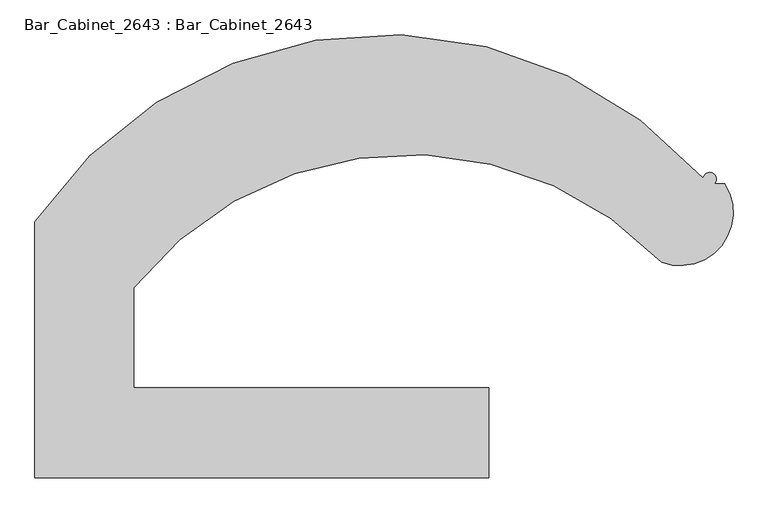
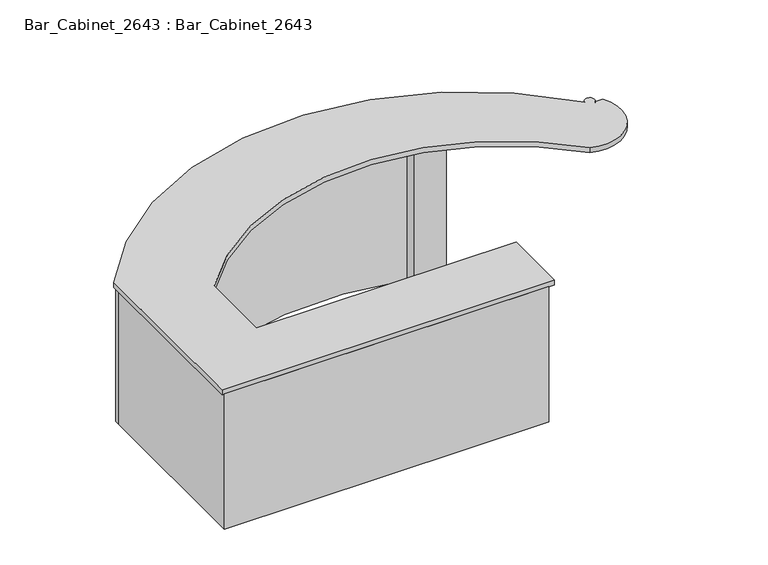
"""IFC4 building model written with IfcOpenShell, lengths in millimetres: furniture geometry, Bar_Cabinet_2643 : Bar_Cabinet_2643."""

from ifc_helpers import new_model, si_unit, point, frame, frame_2d, origin, origin_with_axes, place, context, project, spatial, polyline, circle_curve, trimmed, segment, composite_curve, outline, extrude, faceted_brep, source, transform, mapped, element, save


def bar_cabinet_2643_bar_cabinet_2643_6f9020b6(model_context):
    return source(origin(), model_context, "Body", "SolidModel", [
        extrude(outline(polyline([(-460.2996736, -32.0), (-460.2996736, -26.0), (-190.2996736, -26.0), (-190.2996736, -32.0), (-460.2996736, -32.0)])), frame((0.0, 0.0, 148.3551782), z_axis=(0.0, 0.0, 1.0), x_axis=(1.0, 0.0, 0.0)), (0.0, 0.0, 1.0), 682.9868778),
        extrude(outline(polyline([(-518.4142545, 645.0), (-512.4142545, 645.0), (-512.4142545, 375.0), (-518.4142545, 375.0), (-518.4142545, 645.0)])), frame((0.0, 0.0, 148.3551782), z_axis=(0.0, 0.0, 1.0), x_axis=(1.0, 0.0, 0.0)), (0.0, 0.0, 1.0), 682.9868778),
        extrude(outline(polyline([(-518.4142545, 370.0), (-512.4142545, 370.0), (-512.4142545, 100.0), (-518.4142545, 100.0), (-518.4142545, 370.0)])), frame((0.0, 0.0, 148.3551782), z_axis=(0.0, 0.0, 1.0), x_axis=(1.0, 0.0, 0.0)), (0.0, 0.0, 1.0), 682.9868778),
        extrude(outline(polyline([(-174.2996736, -32.0), (-174.2996736, -26.0), (95.7003264, -26.0), (95.7003264, -32.0), (-174.2996736, -32.0)])), frame((0.0, 0.0, 148.3551782), z_axis=(0.0, 0.0, 1.0), x_axis=(1.0, 0.0, 0.0)), (0.0, 0.0, 1.0), 682.9868778),
        extrude(outline(polyline([(100.7003264, -32.0), (100.7003264, -26.0), (370.7003264, -26.0), (370.7003264, -32.0), (100.7003264, -32.0)])), frame((0.0, 0.0, 148.3551782), z_axis=(0.0, 0.0, 1.0), x_axis=(1.0, 0.0, 0.0)), (0.0, 0.0, 1.0), 682.9868778),
        extrude(outline(polyline([(386.7003264, -32.0), (386.7003264, -26.0), (656.7003264, -26.0), (656.7003264, -32.0), (386.7003264, -32.0)])), frame((0.0, 0.0, 148.3551782), z_axis=(0.0, 0.0, 1.0), x_axis=(1.0, 0.0, 0.0)), (0.0, 0.0, 1.0), 682.9868778),
        extrude(outline(polyline([(661.7003264, -32.0), (661.7003264, -26.0), (931.7003264, -26.0), (931.7003264, -32.0), (661.7003264, -32.0)])), frame((0.0, 0.0, 148.3551782), z_axis=(0.0, 0.0, 1.0), x_axis=(1.0, 0.0, 0.0)), (0.0, 0.0, 1.0), 682.9868778),
        faceted_brep([(-518.4142545, 710.0, 868.0), (-890.2996736, 710.0, 868.0), (-890.2996736, -400.0, 868.0), (1077.7003264, -400.0, 868.0), (1077.7003264, -32.0, 868.0), (-518.4142545, -32.0, 868.0), (-518.4142545, 710.0, 0.0), (-518.4142545, -32.0, 0.0), (1077.7003264, -32.0, 0.0), (1077.7003264, -400.0, 0.0), (-890.2996736, -400.0, 0.0), (-890.2996736, 710.0, 0.0), (899.7003264, -32.0, 818.0), (418.7003264, -32.0, 818.0), (418.7003264, -32.0, 500.0), (899.7003264, -32.0, 500.0), (338.7003264, -32.0, 818.0), (-142.2996736, -32.0, 818.0), (-142.2996736, -32.0, 500.0), (338.7003264, -32.0, 500.0), (-234.0537141, -32.0, 818.0), (-439.4142545, -32.0, 818.0), (-439.4142545, -32.0, 500.0), (-234.0537141, -32.0, 500.0), (338.7003264, -32.0, 484.0), (-142.2996736, -32.0, 484.0), (-142.2996736, -32.0, 166.0), (338.7003264, -32.0, 166.0), (899.7003264, -32.0, 484.0), (418.7003264, -32.0, 484.0), (418.7003264, -32.0, 166.0), (899.7003264, -32.0, 166.0), (-234.0537141, -32.0, 484.0), (-439.4142545, -32.0, 484.0), (-439.4142545, -32.0, 166.0), (-234.0537141, -32.0, 166.0), (-518.4142545, 125.0, 818.0), (-518.4142545, 625.0, 818.0), (-518.4142545, 625.0, 500.0), (-518.4142545, 125.0, 500.0), (-518.4142545, 125.0, 484.0), (-518.4142545, 625.0, 484.0), (-518.4142545, 625.0, 166.0), (-518.4142545, 125.0, 166.0), (899.7003264, -48.0, 818.0), (931.7003264, -48.0, 818.0), (931.7003264, -284.0, 818.0), (386.7003264, -284.0, 818.0), (386.7003264, -48.0, 818.0), (418.7003264, -48.0, 818.0), (418.7003264, -48.0, 500.0), (386.7003264, -48.0, 500.0), (386.7003264, -284.0, 500.0), (931.7003264, -284.0, 500.0), (931.7003264, -48.0, 500.0), (899.7003264, -48.0, 500.0), (338.7003264, -48.0, 818.0), (370.7003264, -48.0, 818.0), (370.7003264, -284.0, 818.0), (-174.2996736, -284.0, 818.0), (-174.2996736, -48.0, 818.0), (-142.2996736, -48.0, 818.0), (-142.2996736, -48.0, 500.0), (-174.2996736, -48.0, 500.0), (-174.2996736, -284.0, 500.0), (370.7003264, -284.0, 500.0), (370.7003264, -48.0, 500.0), (338.7003264, -48.0, 500.0), (-234.0537141, -48.0, 818.0), (-190.2996736, -48.0, 818.0), (-190.2996736, -284.0, 818.0), (-874.2996736, -284.0, 818.0), (-874.2996736, 708.0, 818.0), (-534.4142545, 708.0, 818.0), (-534.4142545, 625.0, 818.0), (-534.4142545, 125.0, 818.0), (-534.4142545, -48.0, 818.0), (-439.4142545, -48.0, 818.0), (-439.4142545, -48.0, 500.0), (-534.4142545, -48.0, 500.0), (-534.4142545, 125.0, 500.0), (-534.4142545, 625.0, 500.0), (-534.4142545, 708.0, 500.0), (-874.2996736, 708.0, 500.0), (-874.2996736, -284.0, 500.0), (-190.2996736, -284.0, 500.0), (-190.2996736, -48.0, 500.0), (-234.0537141, -48.0, 500.0), (338.7003264, -48.0, 484.0), (370.7003264, -48.0, 484.0), (370.7003264, -284.0, 484.0), (-174.2996736, -284.0, 484.0), (-174.2996736, -48.0, 484.0), (-142.2996736, -48.0, 484.0), (-142.2996736, -48.0, 166.0), (-174.2996736, -48.0, 166.0), (-174.2996736, -284.0, 166.0), (370.7003264, -284.0, 166.0), (370.7003264, -48.0, 166.0), (338.7003264, -48.0, 166.0), (899.7003264, -48.0, 484.0), (931.7003264, -48.0, 484.0), (931.7003264, -284.0, 484.0), (386.7003264, -284.0, 484.0), (386.7003264, -48.0, 484.0), (418.7003264, -48.0, 484.0), (418.7003264, -48.0, 166.0), (386.7003264, -48.0, 166.0), (386.7003264, -284.0, 166.0), (931.7003264, -284.0, 166.0), (931.7003264, -48.0, 166.0), (899.7003264, -48.0, 166.0), (-234.0537141, -48.0, 484.0), (-190.2996736, -48.0, 484.0), (-190.2996736, -284.0, 484.0), (-874.2996736, -284.0, 484.0), (-874.2996736, 708.0, 484.0), (-534.4142545, 708.0, 484.0), (-534.4142545, 625.0, 484.0), (-534.4142545, 125.0, 484.0), (-534.4142545, -48.0, 484.0), (-439.4142545, -48.0, 484.0), (-439.4142545, -48.0, 166.0), (-534.4142545, -48.0, 166.0), (-534.4142545, 125.0, 166.0), (-534.4142545, 625.0, 166.0), (-534.4142545, 708.0, 166.0), (-874.2996736, 708.0, 166.0), (-874.2996736, -284.0, 166.0), (-190.2996736, -284.0, 166.0), (-190.2996736, -48.0, 166.0), (-234.0537141, -48.0, 166.0)], [[[0, 1, 2, 3, 4, 5]], [[6, 7, 8, 9, 10, 11]], [[1, 0, 6, 11]], [[2, 1, 11, 10]], [[3, 2, 10, 9]], [[4, 3, 9, 8]], [[5, 4, 8, 7], [12, 13, 14, 15], [16, 17, 18, 19], [20, 21, 22, 23], [24, 25, 26, 27], [28, 29, 30, 31], [32, 33, 34, 35]], [[0, 5, 7, 6], [36, 37, 38, 39], [40, 41, 42, 43]], [[12, 44, 45, 46, 47, 48, 49, 13]], [[14, 50, 51, 52, 53, 54, 55, 15]], [[13, 49, 50, 14]], [[49, 48, 51, 50]], [[48, 47, 52, 51]], [[47, 46, 53, 52]], [[46, 45, 54, 53]], [[45, 44, 55, 54]], [[44, 12, 15, 55]], [[16, 56, 57, 58, 59, 60, 61, 17]], [[18, 62, 63, 64, 65, 66, 67, 19]], [[17, 61, 62, 18]], [[61, 60, 63, 62]], [[60, 59, 64, 63]], [[59, 58, 65, 64]], [[58, 57, 66, 65]], [[57, 56, 67, 66]], [[56, 16, 19, 67]], [[20, 68, 69, 70, 71, 72, 73, 74, 37, 36, 75, 76, 77, 21]], [[22, 78, 79, 80, 39, 38, 81, 82, 83, 84, 85, 86, 87, 23]], [[21, 77, 78, 22]], [[77, 76, 79, 78]], [[76, 75, 80, 79]], [[75, 36, 39, 80]], [[37, 74, 81, 38]], [[74, 73, 82, 81]], [[73, 72, 83, 82]], [[72, 71, 84, 83]], [[71, 70, 85, 84]], [[70, 69, 86, 85]], [[69, 68, 87, 86]], [[68, 20, 23, 87]], [[24, 88, 89, 90, 91, 92, 93, 25]], [[26, 94, 95, 96, 97, 98, 99, 27]], [[25, 93, 94, 26]], [[93, 92, 95, 94]], [[92, 91, 96, 95]], [[91, 90, 97, 96]], [[90, 89, 98, 97]], [[89, 88, 99, 98]], [[88, 24, 27, 99]], [[28, 100, 101, 102, 103, 104, 105, 29]], [[30, 106, 107, 108, 109, 110, 111, 31]], [[29, 105, 106, 30]], [[105, 104, 107, 106]], [[104, 103, 108, 107]], [[103, 102, 109, 108]], [[102, 101, 110, 109]], [[101, 100, 111, 110]], [[100, 28, 31, 111]], [[32, 112, 113, 114, 115, 116, 117, 118, 41, 40, 119, 120, 121, 33]], [[34, 122, 123, 124, 43, 42, 125, 126, 127, 128, 129, 130, 131, 35]], [[33, 121, 122, 34]], [[121, 120, 123, 122]], [[120, 119, 124, 123]], [[119, 40, 43, 124]], [[41, 118, 125, 42]], [[118, 117, 126, 125]], [[117, 116, 127, 126]], [[116, 115, 128, 127]], [[115, 114, 129, 128]], [[114, 113, 130, 129]], [[113, 112, 131, 130]], [[112, 32, 35, 131]]]),
        extrude(outline(composite_curve([segment(polyline([(1280.8585391, 1080.3364911), (1280.8585391, 1028.7176289), (1082.0337274, 1028.7176289), (1082.0337274, 1098.4576455)]), True, "CONTINUOUS"), segment(trimmed(circle_curve(frame_2d((601.7623012, -856.1102318)), 2012.7086798), [point((1082.0337274, 1098.4576455))], [point((-620.7845085, 742.7567195))], True, "CARTESIAN"), True, "CONTINUOUS"), segment(polyline([(-620.7845085, 742.7567195), (-486.4142545, 742.7567195), (-486.4142545, 710.0), (-890.2996736, 710.0), (-890.2996736, 741.0671274), (-684.0672853, 741.0671274)]), True, "CONTINUOUS"), segment(trimmed(circle_curve(frame_2d((603.8466673, -858.3604804)), 2053.5070055), [point((-684.0672853, 741.0671274))], [point((1280.8585391, 1080.3364911))], False, "CARTESIAN"), True, "CONTINUOUS")], self_intersect=False)), origin_with_axes(), (0.0, 0.0, 1.0), 868.0),
        extrude(outline(composite_curve([segment(trimmed(circle_curve(frame_2d((2090.3225212, 925.1274916)), 29.2739855), [point((2061.1729325, 927.823361))], [point((2113.3048157, 906.9951899))], False, "CARTESIAN"), True, "CONTINUOUS"), segment(polyline([(2113.3048157, 906.9951899), (2156.4704275, 904.133848)]), True, "CONTINUOUS"), segment(trimmed(circle_curve(frame_2d((1958.8032774, 776.4815974)), 235.3027821), [point((2156.4704275, 904.133848))], [point((1877.1469575, 555.8016376))], False, "CARTESIAN"), True, "CONTINUOUS"), segment(trimmed(circle_curve(frame_2d((754.7391665, -523.217204)), 1556.9460201), [point((1877.1469575, 555.8016376))], [point((-466.201007, 442.9018375))], True, "CARTESIAN"), True, "CONTINUOUS"), segment(polyline([(-466.201007, 442.9018375), (-466.201007, 0.0), (1109.7003264, 0.0), (1109.7003264, -400.0), (-904.4398349, -400.0), (-904.4398349, 735.9019817)]), True, "CONTINUOUS"), segment(trimmed(circle_curve(frame_2d((652.1603186, -308.415429)), 1874.4606937), [point((-904.4398349, 735.9019817))], [point((2061.1729325, 927.823361))], False, "CARTESIAN"), True, "CONTINUOUS")], self_intersect=False)), frame((0.0, 0.0, 868.0), z_axis=(0.0, 0.0, 1.0), x_axis=(1.0, 0.0, 0.0)), (0.0, 0.0, 1.0), 32.0),
    ])


if __name__ == "__main__":
    model = new_model("IFC4")
    model_context = context("Model", 3, world=origin())
    ifc_project = project(units=[si_unit("LENGTHUNIT", "METRE", prefix="MILLI")], contexts=[model_context])
    site = spatial("IfcSite", under=ifc_project)
    building = spatial("IfcBuilding", under=site)
    placement = place(None, origin())
    bar_cabinet_2643_bar_cabinet_2643_shape = bar_cabinet_2643_bar_cabinet_2643_6f9020b6(model_context)
    element("IfcFurniture", 1, ObjectType="Bar_Cabinet_2643 : Bar_Cabinet_2643", at=placement, inside=building, context=model_context, shape_type="MappedRepresentation", body=[
        mapped(bar_cabinet_2643_bar_cabinet_2643_shape, transform((0.0, 0.0, 0.0), x_axis=(1.0, 0.0, 0.0), y_axis=(0.0, 1.0, 0.0), z_axis=(0.0, 0.0, 1.0))),
    ])
    save(model, "model.ifc")
